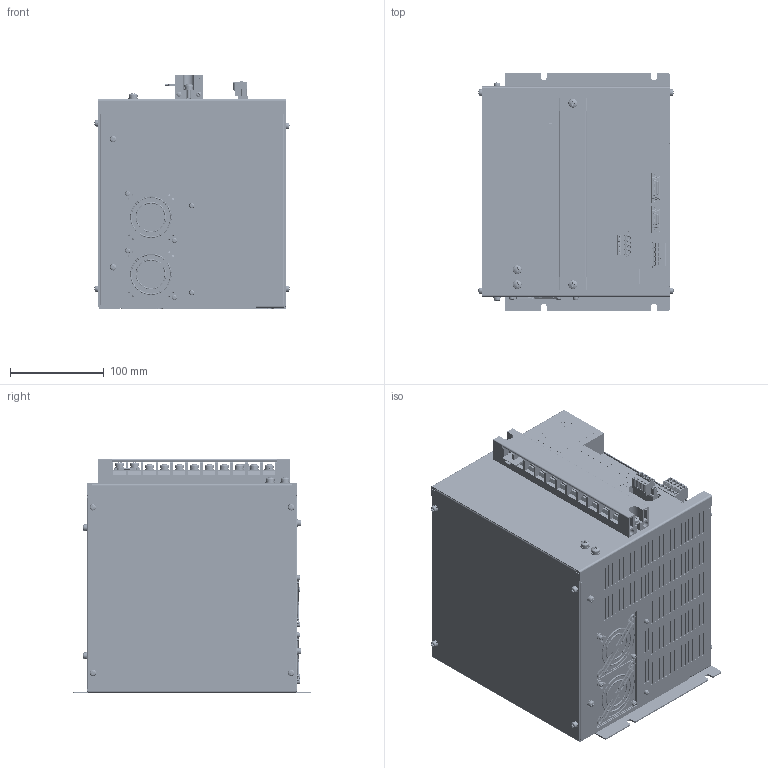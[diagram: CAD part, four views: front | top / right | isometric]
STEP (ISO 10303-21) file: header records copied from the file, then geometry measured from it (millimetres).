
FILE_DESCRIPTION (( 'STEP AP214' ), '1' );
FILE_NAME ('NCR-HC2_702#SE-83390A.STEP', '2020-03-03T05:21:42', ( '' ), ( '' ), 'SwSTEP 2.0', 'SolidWorks 2018', '' );
FILE_SCHEMA (( 'AUTOMOTIVE_DESIGN' ));
Length unit declared in the file: millimetre
Products named in the file (1): NCR-HC2_702#SE-83390A
Bounding box: 208.7 x 255 x 251 mm (x, y, z)
Volume: 10058593.9 mm3; surface area: 415339.3 mm2
Topology: 4 solids, 39 shells, 8998 faces, 23717 edges, 15539 vertices
Faces by surface type: plane 5487, cylinder 2209, bspline 665, cone 403, torus 154, sphere 80
Entity records: 400472 total; most frequent: CARTESIAN_POINT 79345, ORIENTED_EDGE 47410, DIRECTION 43988, EDGE_CURVE 23705, LINE 15852, VECTOR 15852, VERTEX_POINT 15539, AXIS2_PLACEMENT_3D 14068
